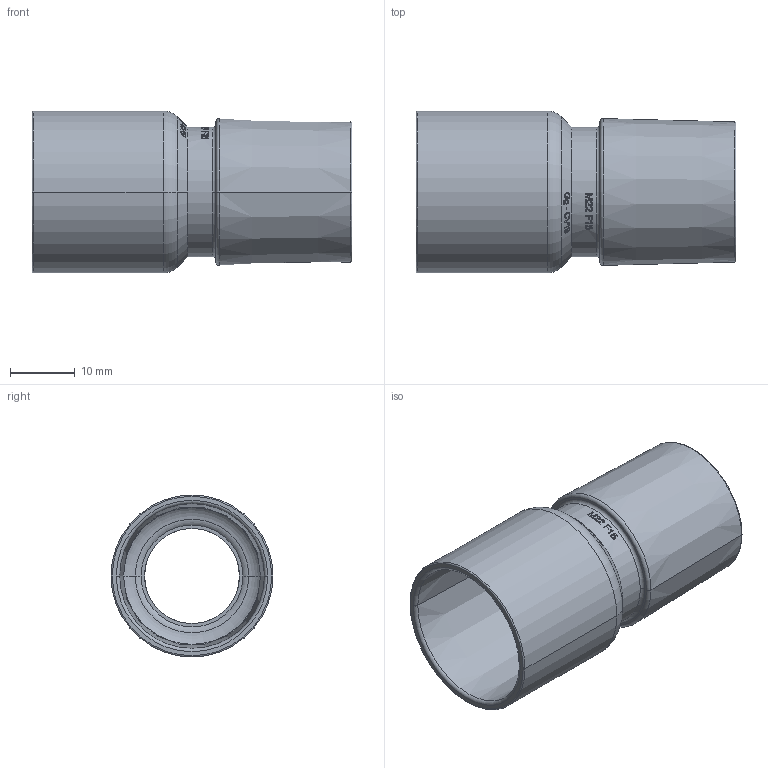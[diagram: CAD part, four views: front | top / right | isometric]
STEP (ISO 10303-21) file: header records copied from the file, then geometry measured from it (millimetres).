
FILE_DESCRIPTION(/* description */ (''),/* implementation_level */ '2;1');
FILE_NAME(/* name */ 'ISO 5356 Reducer M25 F22 - M22 F15_GgCV19.stp',/* time_stamp */ '2020-03-27T12:51:33+01:00',/* author */ (''),/* organization */ (''),/* preprocessor_version */ 'ST-DEVELOPER v16.7',/* originating_system */ 'SIEMENS PLM Software NX 12.0',/* authorisation */ '');
FILE_SCHEMA (('AUTOMOTIVE_DESIGN { 1 0 10303 214 3 1 1 1 }'));
Length unit declared in the file: millimetre
Products named in the file (1): ISO5356 - copia
Bounding box: 49.38 x 25 x 25 mm (x, y, z)
Volume: 8014.3 mm3; surface area: 6905.3 mm2
Topology: 1 solids, 1 shells, 253 faces, 646 edges, 426 vertices
Faces by surface type: plane 158, extrusion 57, torus 20, cone 12, cylinder 6
Full cylindrical faces by diameter (mm): 14.67 x1, 20 x1
Entity records: 9851 total; most frequent: CARTESIAN_POINT 4317, ORIENTED_EDGE 1288, DIRECTION 818, EDGE_CURVE 644, VERTEX_POINT 428, B_SPLINE_CURVE_WITH_KNOTS 414, EDGE_LOOP 290, AXIS2_PLACEMENT_3D 277
